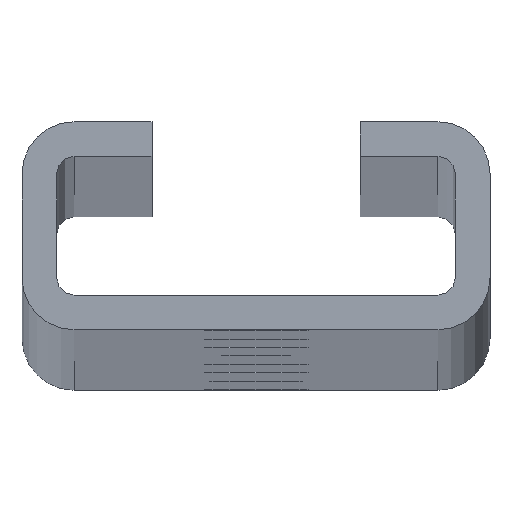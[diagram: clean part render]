
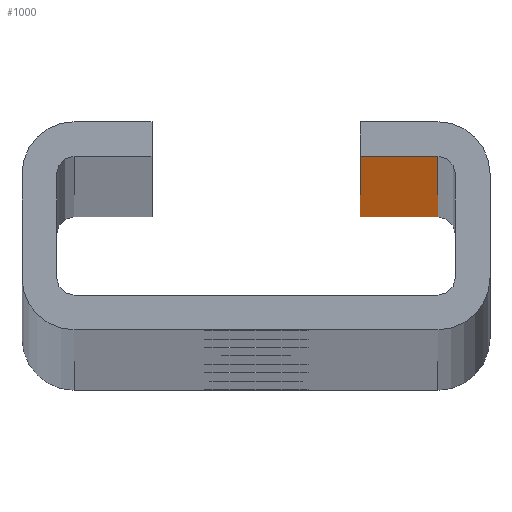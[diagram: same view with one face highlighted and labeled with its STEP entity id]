
A CAD part, top view. The second image highlights one B-rep face of the part: STEP entity #1000.
In plain terms, the highlighted planar face has unit normal (0, -1, 0).
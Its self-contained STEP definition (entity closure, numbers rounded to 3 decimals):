
#19 = EDGE_CURVE ( 'NONE', #318, #325, #1215, .T. ) ;
#21 = EDGE_CURVE ( 'NONE', #325, #323, #1219, .T. ) ;
#22 = EDGE_CURVE ( 'NONE', #316, #323, #1221, .T. ) ;
#23 = EDGE_CURVE ( 'NONE', #318, #316, #1217, .T. ) ;
#74 = ORIENTED_EDGE ( 'NONE', *, *, #22, .F. ) ;
#217 = ORIENTED_EDGE ( 'NONE', *, *, #21, .T. ) ;
#278 = EDGE_LOOP ( 'NONE', ( #217, #74, #499, #498 ) ) ;
#316 = VERTEX_POINT ( 'NONE', #818 ) ;
#318 = VERTEX_POINT ( 'NONE', #815 ) ;
#323 = VERTEX_POINT ( 'NONE', #810 ) ;
#325 = VERTEX_POINT ( 'NONE', #808 ) ;
#484 = AXIS2_PLACEMENT_3D ( 'NONE', #617, #612, #611 ) ;
#498 = ORIENTED_EDGE ( 'NONE', *, *, #19, .T. ) ;
#499 = ORIENTED_EDGE ( 'NONE', *, *, #23, .F. ) ;
#563 = CARTESIAN_POINT ( 'NONE',  ( 24., 10., 2000. ) ) ;
#611 = DIRECTION ( 'NONE',  ( 0., 0., 1. ) ) ;
#612 = DIRECTION ( 'NONE',  ( 0., 1., 0. ) ) ;
#615 = PLANE ( 'NONE',  #484 ) ;
#617 = CARTESIAN_POINT ( 'NONE',  ( 24., 10., 2000. ) ) ;
#808 = CARTESIAN_POINT ( 'NONE',  ( 19.5, 10., 0. ) ) ;
#810 = CARTESIAN_POINT ( 'NONE',  ( 24., 10., 0. ) ) ;
#815 = CARTESIAN_POINT ( 'NONE',  ( 19.5, 10., 2000. ) ) ;
#818 = CARTESIAN_POINT ( 'NONE',  ( 24., 10., 2000. ) ) ;
#972 = DIRECTION ( 'NONE',  ( 1., 0., 0. ) ) ;
#973 = DIRECTION ( 'NONE',  ( 0., 0., -1. ) ) ;
#975 = CARTESIAN_POINT ( 'NONE',  ( 24., 10., 2000. ) ) ;
#976 = DIRECTION ( 'NONE',  ( 1., 0., 0. ) ) ;
#977 = CARTESIAN_POINT ( 'NONE',  ( 24., 10., 0. ) ) ;
#980 = DIRECTION ( 'NONE',  ( 0., 0., -1. ) ) ;
#981 = CARTESIAN_POINT ( 'NONE',  ( 19.5, 10., 2000. ) ) ;
#1000 = ADVANCED_FACE ( 'NONE', ( #1125 ), #615, .F. ) ;
#1125 = FACE_OUTER_BOUND ( 'NONE', #278, .T. ) ;
#1215 = LINE ( 'NONE', #981, #1218 ) ;
#1217 = LINE ( 'NONE', #563, #1226 ) ;
#1218 = VECTOR ( 'NONE', #980, 1000. ) ;
#1219 = LINE ( 'NONE', #977, #1222 ) ;
#1221 = LINE ( 'NONE', #975, #1224 ) ;
#1222 = VECTOR ( 'NONE', #976, 1000. ) ;
#1224 = VECTOR ( 'NONE', #973, 1000. ) ;
#1226 = VECTOR ( 'NONE', #972, 1000. ) ;
